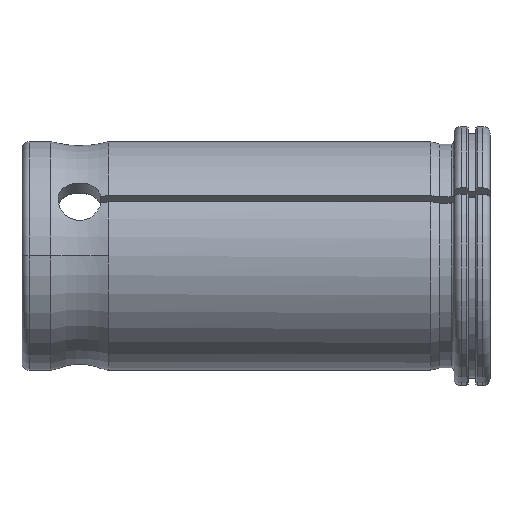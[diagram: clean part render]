
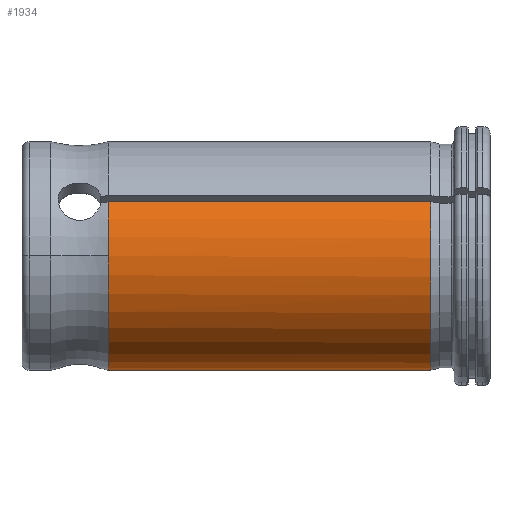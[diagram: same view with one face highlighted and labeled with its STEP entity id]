
A CAD part, top view. The second image highlights one B-rep face of the part: STEP entity #1934.
In plain terms, the highlighted cylindrical face has radius 15.875 mm (diameter 31.75 mm), a partial arc.
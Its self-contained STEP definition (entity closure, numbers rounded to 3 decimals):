
#8=CARTESIAN_POINT('',(-53.,7.501,13.991));
#15=CARTESIAN_POINT('',(-53.,0.,0.));
#16=DIRECTION('',(1.,0.,0.));
#17=DIRECTION('',(0.,0.472,0.881));
#18=AXIS2_PLACEMENT_3D('',#15,#16,#17);
#70=DIRECTION('',(1.,0.,0.));
#71=VECTOR('',#70,44.787);
#72=CARTESIAN_POINT('',(-53.,7.501,13.991));
#73=LINE('',#72,#71);
#74=CARTESIAN_POINT('',(-8.213,0.,0.));
#75=DIRECTION('',(1.,0.,0.));
#76=DIRECTION('',(0.,0.472,0.881));
#77=AXIS2_PLACEMENT_3D('',#74,#75,#76);
#79=DIRECTION('',(1.,0.,0.));
#80=VECTOR('',#79,44.787);
#81=CARTESIAN_POINT('',(-53.,-15.867,0.5));
#82=LINE('',#81,#80);
#121=CARTESIAN_POINT('',(-8.213,7.501,13.991));
#138=CARTESIAN_POINT('',(-8.213,-15.867,0.5));
#1481=CARTESIAN_POINT('',(-53.,-15.867,0.5));
#1505=CARTESIAN_POINT('',(-53.,0.,0.));
#1506=DIRECTION('',(-1.,0.,0.));
#1507=DIRECTION('',(0.,-1.,0.031));
#1508=AXIS2_PLACEMENT_3D('',#1505,#1506,#1507);
#1565=CARTESIAN_POINT('',(-53.,0.,15.875));
#1567=VERTEX_POINT('',#1565);
#1620=VERTEX_POINT('',#1481);
#1657=VERTEX_POINT('',#138);
#1734=VERTEX_POINT('',#8);
#1799=VERTEX_POINT('',#121);
#1918=CARTESIAN_POINT('',(-68.25,0.,0.));
#1919=DIRECTION('',(1.,0.,0.));
#1920=DIRECTION('',(0.,0.,1.));
#1921=AXIS2_PLACEMENT_3D('',#1918,#1919,#1920);
#1922=CYLINDRICAL_SURFACE('',#1921,15.875);
#1924=ORIENTED_EDGE('',*,*,#1923,.T.);
#1926=ORIENTED_EDGE('',*,*,#1925,.T.);
#1928=ORIENTED_EDGE('',*,*,#1927,.F.);
#1930=ORIENTED_EDGE('',*,*,#1929,.T.);
#1931=ORIENTED_EDGE('',*,*,#1811,.F.);
#1932=EDGE_LOOP('',(#1924,#1926,#1928,#1930,#1931));
#1933=FACE_OUTER_BOUND('',#1932,.F.);
#1934=ADVANCED_FACE('',(#1933),#1922,.T.);
#19=CIRCLE('',#18,15.875);
#78=CIRCLE('',#77,15.875);
#1509=CIRCLE('',#1508,15.875);
#1811=EDGE_CURVE('',#1734,#1567,#19,.T.);
#1923=EDGE_CURVE('',#1734,#1799,#73,.T.);
#1925=EDGE_CURVE('',#1799,#1657,#78,.T.);
#1927=EDGE_CURVE('',#1620,#1657,#82,.T.);
#1929=EDGE_CURVE('',#1620,#1567,#1509,.T.);
